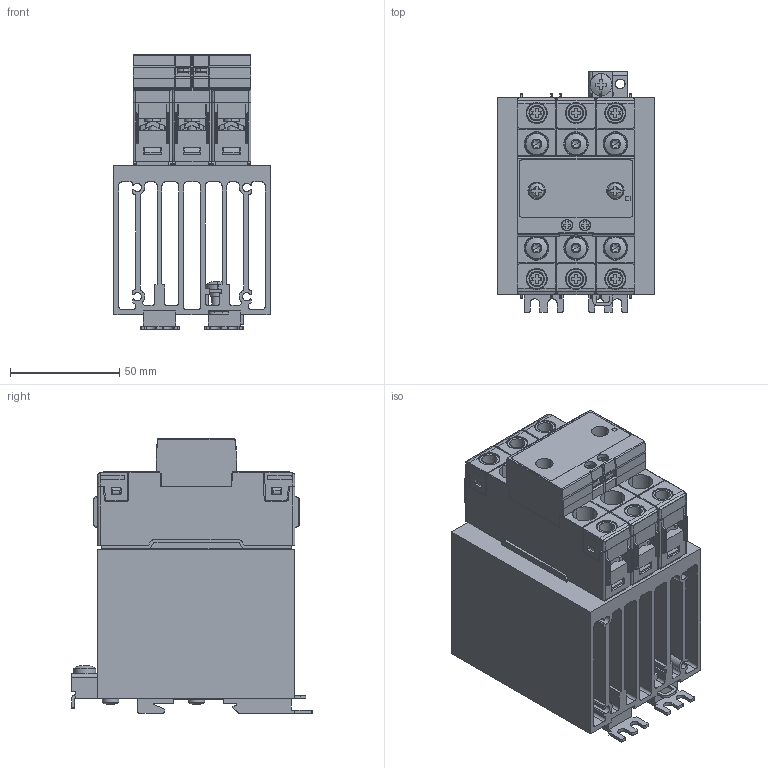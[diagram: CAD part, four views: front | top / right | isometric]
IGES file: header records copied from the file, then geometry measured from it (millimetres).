
Global section: file name: V:\RE DOCS 110324\Projects\0-Catalogue 3D-2D\RG\TEMP\CGI1029-01.igs; native system: AutoCAD-17.2s (LMS Tech) (Microsoft Windows NT Version 5.2 (x64)); preprocessor: Autodesk IGES Translator Mechanical Desktop 2009 (Feb 21 2008) from Autodesk, Inc.; date: 20140716.093906; units: millimetre
Bounding box: 71.3 x 110 x 125.48 mm (x, y, z)
Surface area: 160055.1 mm2 (no closed solid volume)
Topology: 0 solids, 0 shells, 2518 faces, 15258 edges, 15204 vertices
Faces by surface type: bspline 2518
